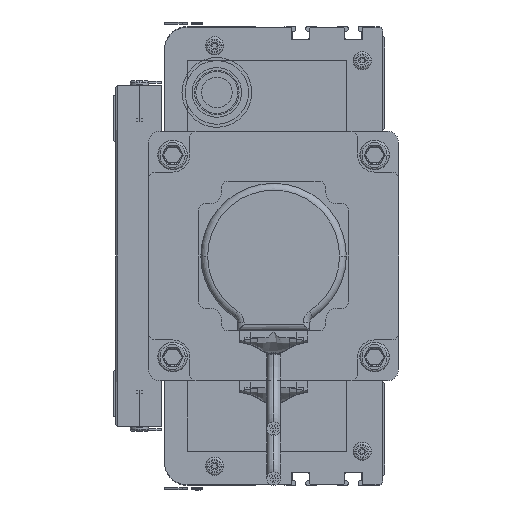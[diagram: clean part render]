
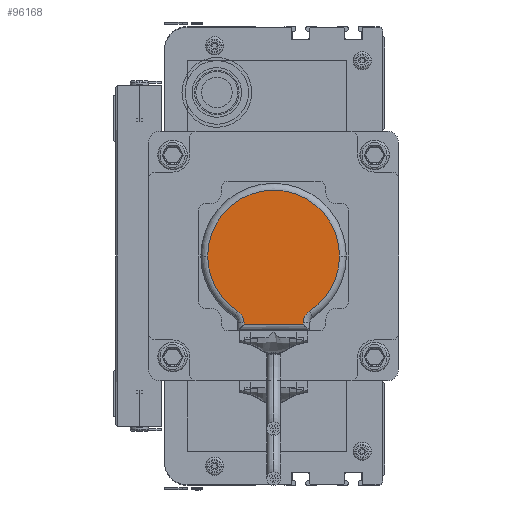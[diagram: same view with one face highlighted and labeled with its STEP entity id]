
A CAD part, left-side view. The second image highlights one B-rep face of the part: STEP entity #96168.
In plain terms, the highlighted planar face has unit normal (-1, 0, 0) as drawn and (0, 0, 1) by its records, which use the part's own axes.
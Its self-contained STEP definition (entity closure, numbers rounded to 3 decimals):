
#87026 = CARTESIAN_POINT ( 'NONE',  ( 33., 33., 25. ) ) ;
#87029 = PLANE ( 'NONE',  #87042 ) ;
#87042 = AXIS2_PLACEMENT_3D ( 'NONE', #87026, #87180, #87178 ) ;
#87081 = FACE_OUTER_BOUND ( 'NONE', #96617, .T. ) ;
#87155 = DIRECTION ( 'NONE',  ( 1., 0., 0. ) ) ;
#87157 = DIRECTION ( 'NONE',  ( 0., 0., 1. ) ) ;
#87158 = CARTESIAN_POINT ( 'NONE',  ( 33., 33., 25. ) ) ;
#87166 = CIRCLE ( 'NONE', #87174, 29. ) ;
#87174 = AXIS2_PLACEMENT_3D ( 'NONE', #87158, #87157, #87155 ) ;
#87178 = DIRECTION ( 'NONE',  ( 1., 0., 0. ) ) ;
#87180 = DIRECTION ( 'NONE',  ( 0., 0., 1. ) ) ;
#87473 = CARTESIAN_POINT ( 'NONE',  ( 17.257, 57.355, 25. ) ) ;
#88019 = CARTESIAN_POINT ( 'NONE',  ( 48.743, 57.355, 25. ) ) ;
#88022 = CARTESIAN_POINT ( 'NONE',  ( 46., 62.394, 25. ) ) ;
#88024 = CARTESIAN_POINT ( 'NONE',  ( 62., 33., 25. ) ) ;
#88035 = AXIS2_PLACEMENT_3D ( 'NONE', #88139, #88138, #88137 ) ;
#88046 = CIRCLE ( 'NONE', #88035, 6. ) ;
#88097 = CIRCLE ( 'NONE', #88210, 29. ) ;
#88101 = DIRECTION ( 'NONE',  ( 1., 0., 0. ) ) ;
#88103 = DIRECTION ( 'NONE',  ( 0., 0., 1. ) ) ;
#88104 = AXIS2_PLACEMENT_3D ( 'NONE', #88120, #88103, #88101 ) ;
#88120 = CARTESIAN_POINT ( 'NONE',  ( 33., 33., 25. ) ) ;
#88130 = CIRCLE ( 'NONE', #88104, 29. ) ;
#88137 = DIRECTION ( 'NONE',  ( 1., 0., 0. ) ) ;
#88138 = DIRECTION ( 'NONE',  ( 0., 0., 1. ) ) ;
#88139 = CARTESIAN_POINT ( 'NONE',  ( 52., 62.394, 25. ) ) ;
#88207 = DIRECTION ( 'NONE',  ( 1., 0., 0. ) ) ;
#88208 = DIRECTION ( 'NONE',  ( 0., 0., 1. ) ) ;
#88209 = CARTESIAN_POINT ( 'NONE',  ( 33., 33., 25. ) ) ;
#88210 = AXIS2_PLACEMENT_3D ( 'NONE', #88209, #88208, #88207 ) ;
#90643 = CARTESIAN_POINT ( 'NONE',  ( 4., 33., 25. ) ) ;
#91831 = CARTESIAN_POINT ( 'NONE',  ( 46., 63., 25. ) ) ;
#91840 = CARTESIAN_POINT ( 'NONE',  ( 17.5, 63., 25. ) ) ;
#91841 = LINE ( 'NONE', #91840, #91961 ) ;
#91911 = DIRECTION ( 'NONE',  ( 0., -1., 0. ) ) ;
#91913 = VECTOR ( 'NONE', #91911, 1000. ) ;
#91915 = CARTESIAN_POINT ( 'NONE',  ( 20., 33., 25. ) ) ;
#91922 = LINE ( 'NONE', #91915, #91913 ) ;
#91960 = DIRECTION ( 'NONE',  ( -1., 0., 0. ) ) ;
#91961 = VECTOR ( 'NONE', #91960, 1000. ) ;
#92766 = CARTESIAN_POINT ( 'NONE',  ( 20., 62.394, 25. ) ) ;
#92794 = CARTESIAN_POINT ( 'NONE',  ( 46., 33., 25. ) ) ;
#92795 = LINE ( 'NONE', #92794, #92815 ) ;
#92814 = DIRECTION ( 'NONE',  ( 0., 1., 0. ) ) ;
#92815 = VECTOR ( 'NONE', #92814, 1000. ) ;
#93045 = DIRECTION ( 'NONE',  ( 1., 0., 0. ) ) ;
#93046 = DIRECTION ( 'NONE',  ( 0., 0., 1. ) ) ;
#93047 = AXIS2_PLACEMENT_3D ( 'NONE', #93068, #93046, #93045 ) ;
#93068 = CARTESIAN_POINT ( 'NONE',  ( 14., 62.394, 25. ) ) ;
#93071 = CIRCLE ( 'NONE', #93047, 6. ) ;
#93088 = CARTESIAN_POINT ( 'NONE',  ( 20., 63., 25. ) ) ;
#96168 = ADVANCED_FACE ( 'NONE', ( #87081 ), #87029, .T. ) ;
#96171 = ORIENTED_EDGE ( 'NONE', *, *, #96720, .F. ) ;
#96172 = ORIENTED_EDGE ( 'NONE', *, *, #96401, .T. ) ;
#96175 = ORIENTED_EDGE ( 'NONE', *, *, #96261, .T. ) ;
#96177 = ORIENTED_EDGE ( 'NONE', *, *, #96272, .T. ) ;
#96179 = EDGE_CURVE ( 'NONE', #96258, #96254, #87166, .T. ) ;
#96211 = VERTEX_POINT ( 'NONE', #87473 ) ;
#96247 = ORIENTED_EDGE ( 'NONE', *, *, #96631, .T. ) ;
#96251 = EDGE_CURVE ( 'NONE', #96252, #96254, #88046, .T. ) ;
#96252 = VERTEX_POINT ( 'NONE', #88022 ) ;
#96254 = VERTEX_POINT ( 'NONE', #88019 ) ;
#96258 = VERTEX_POINT ( 'NONE', #88024 ) ;
#96261 = EDGE_CURVE ( 'NONE', #96320, #96258, #88130, .T. ) ;
#96272 = EDGE_CURVE ( 'NONE', #96211, #96320, #88097, .T. ) ;
#96320 = VERTEX_POINT ( 'NONE', #90643 ) ;
#96397 = VERTEX_POINT ( 'NONE', #91831 ) ;
#96401 = EDGE_CURVE ( 'NONE', #96397, #96725, #91841, .T. ) ;
#96407 = EDGE_CURVE ( 'NONE', #96725, #96616, #91922, .T. ) ;
#96410 = ORIENTED_EDGE ( 'NONE', *, *, #96407, .T. ) ;
#96574 = ORIENTED_EDGE ( 'NONE', *, *, #96251, .F. ) ;
#96616 = VERTEX_POINT ( 'NONE', #92766 ) ;
#96617 = EDGE_LOOP ( 'NONE', ( #96171, #96177, #96175, #96629, #96574, #96247, #96172, #96410 ) ) ;
#96629 = ORIENTED_EDGE ( 'NONE', *, *, #96179, .T. ) ;
#96631 = EDGE_CURVE ( 'NONE', #96252, #96397, #92795, .T. ) ;
#96720 = EDGE_CURVE ( 'NONE', #96211, #96616, #93071, .T. ) ;
#96725 = VERTEX_POINT ( 'NONE', #93088 ) ;
